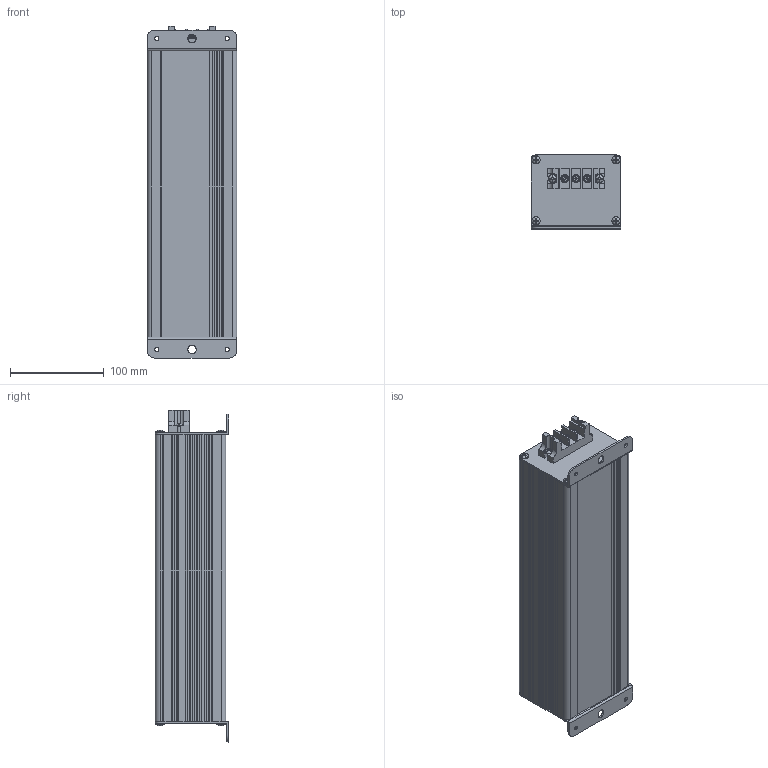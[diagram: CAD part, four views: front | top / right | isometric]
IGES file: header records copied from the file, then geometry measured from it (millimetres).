
Global section: file name: LB-11V60AH-TB; native system: Autodesk Inventor 2021; preprocessor: unknown; author: eunsol jang; date: 20221207.151258; units: inch
Bounding box: 95.5 x 78.2 x 353.29 mm (x, y, z)
Volume: 346145 mm3; surface area: 276931.6 mm2
Topology: 1 solids, 1 shells, 655 faces, 1933 edges, 1296 vertices
Faces by surface type: bspline 655
